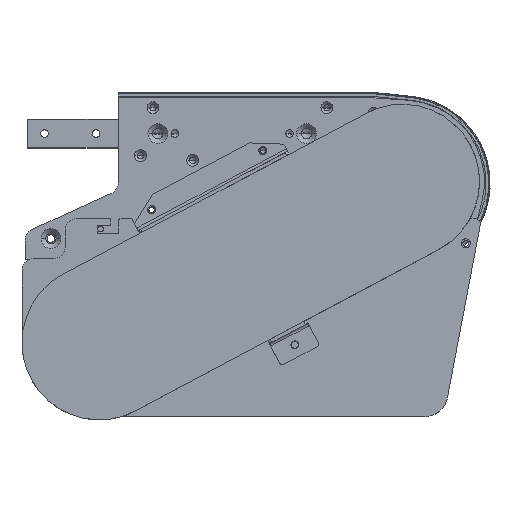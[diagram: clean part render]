
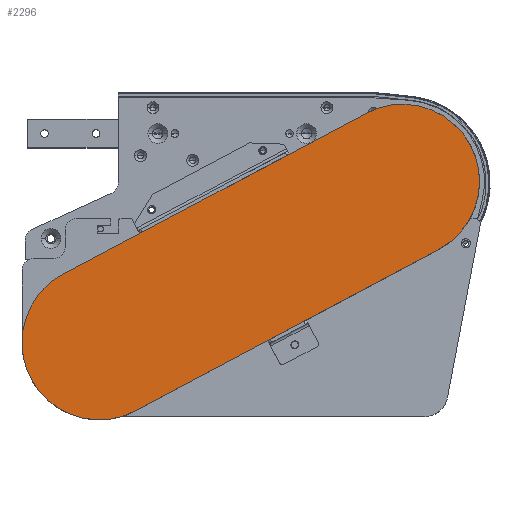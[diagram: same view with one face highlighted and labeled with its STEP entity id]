
A CAD part, top view. The second image highlights one B-rep face of the part: STEP entity #2296.
In plain terms, the highlighted planar face has unit normal (0, 0, 1).
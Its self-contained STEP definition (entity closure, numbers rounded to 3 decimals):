
#93 = CARTESIAN_POINT ( 'NONE',  ( -296.863, -79.718, 105.5 ) ) ;
#481 = VERTEX_POINT ( 'NONE', #26715 ) ;
#608 = AXIS2_PLACEMENT_3D ( 'NONE', #7422, #11383, #17467 ) ;
#1015 = CIRCLE ( 'NONE', #4895, 67.5 ) ;
#1752 = DIRECTION ( 'NONE',  ( 1., 0., 0. ) ) ;
#2000 = CARTESIAN_POINT ( 'NONE',  ( 31.4, -58.075, 105.5 ) ) ;
#2191 = ORIENTED_EDGE ( 'NONE', *, *, #14068, .T. ) ;
#2296 = ADVANCED_FACE ( 'NONE', ( #24025 ), #3416, .T. ) ;
#2851 = CARTESIAN_POINT ( 'NONE',  ( -0.289, 1.524, 105.5 ) ) ;
#3111 = DIRECTION ( 'NONE',  ( 0.883, 0.469, 0. ) ) ;
#3416 = PLANE ( 'NONE',  #7790 ) ;
#3628 = CARTESIAN_POINT ( 'NONE',  ( -265.173, -139.317, 105.5 ) ) ;
#3653 = VERTEX_POINT ( 'NONE', #2000 ) ;
#4131 = ORIENTED_EDGE ( 'NONE', *, *, #20846, .T. ) ;
#4578 = CARTESIAN_POINT ( 'NONE',  ( -233.484, -198.916, 105.5 ) ) ;
#4642 = EDGE_CURVE ( 'NONE', #14400, #12550, #1015, .T. ) ;
#4895 = AXIS2_PLACEMENT_3D ( 'NONE', #3628, #13868, #1752 ) ;
#4997 = ORIENTED_EDGE ( 'NONE', *, *, #4642, .T. ) ;
#6404 = CARTESIAN_POINT ( 'NONE',  ( -233.484, -198.916, 105.5 ) ) ;
#6569 = DIRECTION ( 'NONE',  ( -0.883, -0.469, 0. ) ) ;
#7302 = EDGE_CURVE ( 'NONE', #3653, #481, #14805, .T. ) ;
#7422 = CARTESIAN_POINT ( 'NONE',  ( -265.173, -139.317, 105.5 ) ) ;
#7790 = AXIS2_PLACEMENT_3D ( 'NONE', #11649, #13757, #20561 ) ;
#7859 = EDGE_CURVE ( 'NONE', #481, #21156, #9548, .T. ) ;
#8086 = EDGE_LOOP ( 'NONE', ( #4131, #4997, #2191, #24090, #20700 ) ) ;
#8143 = CARTESIAN_POINT ( 'NONE',  ( -296.863, -79.718, 105.5 ) ) ;
#9027 = CIRCLE ( 'NONE', #608, 67.5 ) ;
#9548 = LINE ( 'NONE', #93, #26098 ) ;
#11013 = AXIS2_PLACEMENT_3D ( 'NONE', #2851, #19439, #23441 ) ;
#11383 = DIRECTION ( 'NONE',  ( 0., 0., 1. ) ) ;
#11649 = CARTESIAN_POINT ( 'NONE',  ( -265.173, -139.317, 105.5 ) ) ;
#12550 = VERTEX_POINT ( 'NONE', #6404 ) ;
#13757 = DIRECTION ( 'NONE',  ( 0., 0., 1. ) ) ;
#13868 = DIRECTION ( 'NONE',  ( 0., 0., 1. ) ) ;
#14068 = EDGE_CURVE ( 'NONE', #12550, #3653, #19712, .T. ) ;
#14194 = VECTOR ( 'NONE', #3111, 1000. ) ;
#14400 = VERTEX_POINT ( 'NONE', #16405 ) ;
#14805 = CIRCLE ( 'NONE', #11013, 67.5 ) ;
#16405 = CARTESIAN_POINT ( 'NONE',  ( -332.673, -139.317, 105.5 ) ) ;
#17467 = DIRECTION ( 'NONE',  ( 1., 0., 0. ) ) ;
#19439 = DIRECTION ( 'NONE',  ( 0., 0., 1. ) ) ;
#19712 = LINE ( 'NONE', #4578, #14194 ) ;
#20561 = DIRECTION ( 'NONE',  ( 1., 0., 0. ) ) ;
#20700 = ORIENTED_EDGE ( 'NONE', *, *, #7859, .T. ) ;
#20846 = EDGE_CURVE ( 'NONE', #21156, #14400, #9027, .T. ) ;
#21156 = VERTEX_POINT ( 'NONE', #8143 ) ;
#23441 = DIRECTION ( 'NONE',  ( 1., 0., 0. ) ) ;
#24025 = FACE_OUTER_BOUND ( 'NONE', #8086, .T. ) ;
#24090 = ORIENTED_EDGE ( 'NONE', *, *, #7302, .T. ) ;
#26098 = VECTOR ( 'NONE', #6569, 1000. ) ;
#26715 = CARTESIAN_POINT ( 'NONE',  ( -31.978, 61.123, 105.5 ) ) ;
